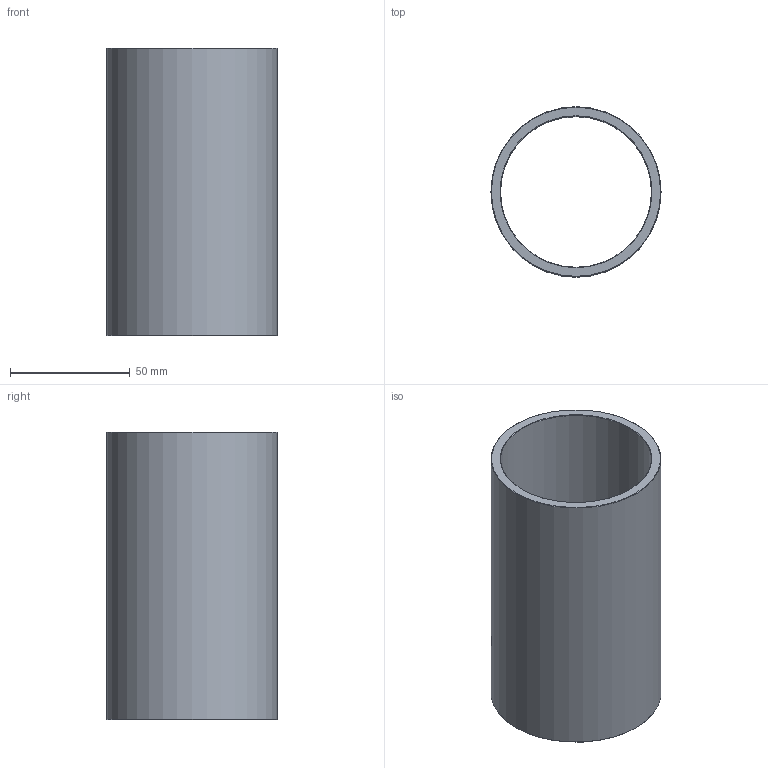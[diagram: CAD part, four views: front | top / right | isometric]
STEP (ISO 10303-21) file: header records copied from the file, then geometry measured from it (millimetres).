
FILE_DESCRIPTION(('STEP AP203'),'1');
FILE_NAME('C:/Users/Rodrigo/Desktop/GA4.063.120-1.step','2016-11-08T13:38:39',(' '),(' '),'Spatial InterOp 3D',' ',' ');
FILE_SCHEMA(('CONFIG_CONTROL_DESIGN'));
Length unit declared in the file: millimetre
Products named in the file (1): 1
Bounding box: 71 x 71 x 120 mm (x, y, z)
Volume: 101016.8 mm3; surface area: 52102.1 mm2
Topology: 1 solids, 1 shells, 8 faces, 14 edges, 8 vertices
Faces by surface type: cone 4, cylinder 2, plane 2
Full cylindrical faces by diameter (mm): 63 x1, 71 x1
Entity records: 212 total; most frequent: DIRECTION 34, CARTESIAN_POINT 25, AXIS2_PLACEMENT_3D 17, EDGE_LOOP 16, ORIENTED_EDGE 16, FACE_OUTER_BOUND 10, ADVANCED_FACE 8, EDGE_CURVE 8
